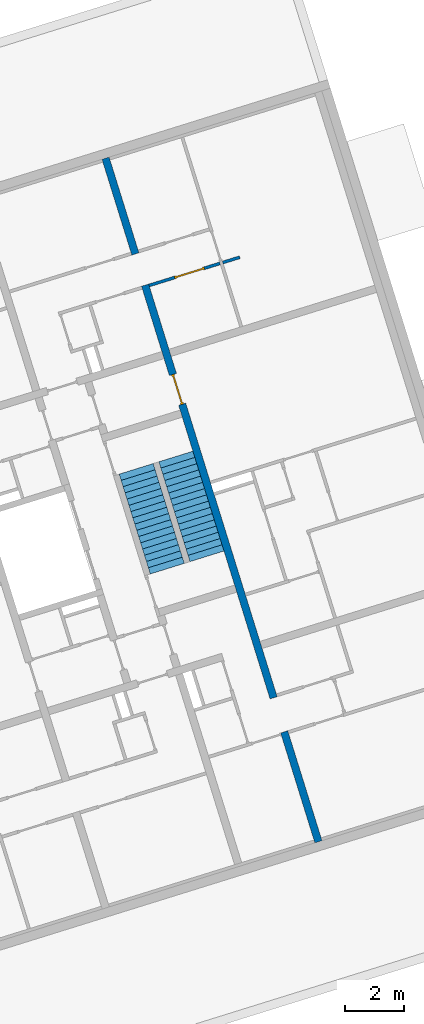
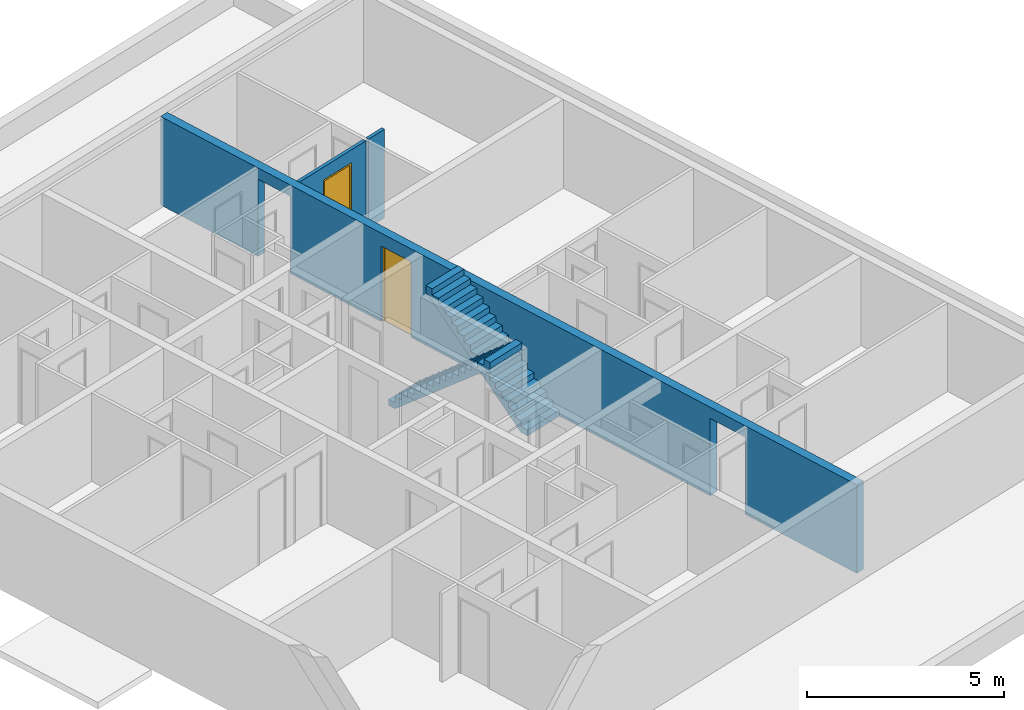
# One storey, part 9 of 9: 2 doors, 2 stair flights, 2 walls, 5 openings, 2 elements without a shape of their own.
"""IFC4 building model written with IfcOpenShell, lengths in metres."""

from ifc_helpers import new_model, entity, si_unit, converted_unit, direction, frame, origin, place, context, subcontext, project, spatial, indexed_curve, outline, extrude, polygons, source, transform, mapped, material, constituent, constituent_set, type_object, type_shapes, element, fill, aggregate, save


model = new_model("IFC4")

# Units and contexts
model_context = context("Model", 3, precision=1e-05, world=origin(), true_north=direction((6.12323399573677e-17, 1.0)))
body_context = subcontext(model_context, "Body", "Model", "MODEL_VIEW")
ifc_project = project(units=[si_unit("LENGTHUNIT", "METRE"), si_unit("AREAUNIT", "SQUARE_METRE"), si_unit("VOLUMEUNIT", "CUBIC_METRE"), converted_unit("PLANEANGLEUNIT", "DEGREE", entity("IfcPlaneAngleMeasure", 0.0174532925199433), si_unit("PLANEANGLEUNIT", "RADIAN"), dimensions=[0, 0, 0, 0, 0, 0, 0])], contexts=[model_context])

# Site, building, storey
site_placement = place(None, frame((13.1347999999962, 11.9886000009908, 0.0), z_axis=(0.0, 0.0, 1.0), x_axis=(0.954770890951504, 0.297342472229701, 0.0)))
site = spatial("IfcSite", under=ifc_project, at=site_placement, Name="Schiehaven", CompositionType="ELEMENT")
building_placement = place(site_placement, origin())
building = spatial("IfcBuilding", under=site, at=building_placement, Name="VORM huis", CompositionType="ELEMENT")
storey_placement = place(building_placement, frame((0.0, 0.0, 6.9)))
storey = spatial("IfcBuildingStorey", under=building, at=storey_placement, Name="02 tweede verdieping", CompositionType="ELEMENT", Elevation=6.9)

# Wall, openings, door
ifc_material_1 = material(Name="beton_gewapend_ihw", Category="Miscellaneous")
wall_type_1 = type_object("IfcWallType", Name="Basic Wall:28_WA_skelet_wand 250mm_gen", PredefinedType="STANDARD")
wall_1_placement = place(storey_placement, frame((20.0, 29.0999999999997, 0.0), z_axis=(0.0, 0.0, 1.0), x_axis=(0.0, -1.0, 0.0)))
wall_1 = element("IfcWall", 1, at=wall_1_placement, inside=storey, type_object=wall_type_1, material=ifc_material_1, Name="Constructieve wand", ObjectType="Wand", PredefinedType="NOTDEFINED", context=body_context, shape_type="Tessellation", body=[
    polygons([(8.67499999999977, -0.124999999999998, 2.34999999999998), (8.67499999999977, -0.124999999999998, 1.08286712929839e-15), (19.0249999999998, -0.124999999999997, 1.08286712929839e-15), (19.0249999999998, -0.124999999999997, 2.4), (20.2249999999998, -0.125000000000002, 2.4), (20.2249999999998, -0.124999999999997, 1.08286712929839e-15), (24.1, -0.124999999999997, 1.08286712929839e-15), (24.1, -0.124999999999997, 2.75), (7.025, -0.124999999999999, 2.75), (6.775, -0.125, 2.75), (4.33146851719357e-15, -0.124999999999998, 2.75), (4.33146851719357e-15, -0.124999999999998, 1.08286712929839e-15), (3.37499999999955, -0.124999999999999, 1.08286712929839e-15), (3.37499999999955, -0.124999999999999, 2.4), (4.47499999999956, -0.124999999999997, 2.4), (4.47499999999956, -0.124999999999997, 1.08286712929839e-15), (6.775, -0.125, 0.0), (7.025, -0.124999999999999, 0.0), (7.62499999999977, -0.124999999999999, 1.08286712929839e-15), (7.62499999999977, -0.124999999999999, 2.34999999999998), (19.0249999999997, 0.125000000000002, 1.08286712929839e-15), (15.4749999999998, 0.125, 0.0), (15.3749999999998, 0.125000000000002, 0.0), (8.67499999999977, 0.125000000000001, 1.08286712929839e-15), (8.67499999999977, 0.125000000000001, 2.34999999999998), (7.62499999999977, 0.125, 2.34999999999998), (7.62499999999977, 0.125, 1.08286712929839e-15), (4.47499999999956, 0.125000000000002, 1.08286712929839e-15), (4.47499999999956, 0.125000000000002, 2.4), (3.37499999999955, 0.125, 2.4), (3.37499999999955, 0.125, 1.08286712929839e-15), (0.0, 0.125000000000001, 1.08286712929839e-15), (0.0, 0.125000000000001, 2.75), (15.3749999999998, 0.125000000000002, 2.75), (15.4749999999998, 0.125, 2.75), (24.1, 0.125000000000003, 2.75), (24.1, 0.125000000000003, 1.08286712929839e-15), (20.2249999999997, 0.125000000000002, 1.08286712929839e-15), (20.2249999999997, 0.125000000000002, 2.4), (19.0249999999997, 0.125000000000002, 2.4)], [[[1, 2, 3, 4, 5, 6, 7, 8, 9, 10, 11, 12, 13, 14, 15, 16, 17, 18, 19, 20]], [[21, 22, 23, 24, 25, 26, 27, 28, 29, 30, 31, 32, 33, 34, 35, 36, 37, 38, 39, 40]], [[12, 32, 31, 13]], [[8, 7, 37, 36]], [[11, 10, 9, 8, 36, 35, 34, 33]], [[12, 11, 33, 32]], [[14, 30, 29, 15]], [[30, 14, 13, 31]], [[15, 29, 28, 16]], [[4, 40, 39, 5]], [[40, 4, 3, 21]], [[5, 39, 38, 6]], [[27, 26, 20, 19]], [[25, 24, 2, 1]], [[26, 25, 1, 20]], [[19, 18, 17, 16, 28, 27]], [[3, 2, 24, 23, 22, 21]], [[37, 7, 6, 38]]], closed=True),
])
opening_1_placement = place(wall_1_placement, origin())
element("IfcOpeningElement", 2, at=opening_1_placement, cuts=wall_1, Name="Constructieve wand", PredefinedType="OPENING", context=body_context, shape_type="SweptSolid", body=[
    extrude(outline(indexed_curve([(-1.2, -0.550000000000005), (1.2, -0.550000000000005), (1.2, 0.550000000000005), (-1.2, 0.550000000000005), (-1.2, -0.550000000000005)], self_intersect=False)), frame((3.92499999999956, -0.125000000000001, 1.2), z_axis=(0.0, 1.0, 0.0), x_axis=(0.0, 0.0, -1.0)), (0.0, 0.0, 1.0), 0.250000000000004),
])
opening_2_placement = place(wall_1_placement, origin())
element("IfcOpeningElement", 3, at=opening_2_placement, cuts=wall_1, Name="Constructieve wand", PredefinedType="OPENING", context=body_context, shape_type="SweptSolid", body=[
    extrude(outline(indexed_curve([(-1.2, -0.599999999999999), (1.2, -0.599999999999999), (1.2, 0.599999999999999), (-1.2, 0.599999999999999), (-1.2, -0.599999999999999)], self_intersect=False)), frame((19.6249999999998, -0.125000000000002, 1.2), z_axis=(0.0, 1.0, 0.0), x_axis=(0.0, 0.0, -1.0)), (0.0, 0.0, 1.0), 0.250000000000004),
])
opening_3_placement = place(wall_1_placement, frame((8.67499999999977, 0.125000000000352, 0.0)))
opening_3 = element("IfcOpeningElement", 4, at=opening_3_placement, cuts=wall_1, Name="Binnendeur", PredefinedType="OPENING", context=body_context, shape_type="SweptSolid", body=[
    extrude(outline(indexed_curve([(2.34999999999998, 1.05), (0.0, 1.05), (0.0, -7.44152288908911e-29), (2.34999999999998, -7.44152288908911e-29), (2.34999999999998, 1.05)], self_intersect=False)), frame((0.0, 0.0, 0.0), z_axis=(0.0, -1.0, 0.0), x_axis=(0.0, 0.0, 1.0)), (0.0, 0.0, 1.0), 0.25),
])
ifc_material_2 = material(Name="PD_a_binnenwandopeningen", Category="Miscellaneous")
ifc_constituent_1 = constituent(ifc_material_2, Name="PD_a_binnenwandopeningen", Category="Miscellaneous")
ifc_material_3 = material(Name="metaal_aluminium_ntb", Category="Miscellaneous")
ifc_constituent_2 = constituent(ifc_material_3, Name="metaal_aluminium_ntb", Category="Miscellaneous")
ifc_constituent_set_1 = constituent_set(constituents=[ifc_constituent_1, ifc_constituent_2])
door_type = type_object("IfcDoorType", Name="32_DO_binnendeur enkel:binnendeur", OperationType="REVOLVING", PredefinedType="DOOR")
shared_shape_1 = source(origin(), body_context, "Body", "SweptSolid", [
    extrude(outline(indexed_curve([(-1.16249999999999, -0.525000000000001), (1.18749999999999, -0.525), (1.18749999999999, 0.525000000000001), (-1.16249999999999, 0.525000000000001), (-1.16249999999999, 0.475), (1.13749999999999, 0.475), (1.13749999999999, -0.475), (-1.16249999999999, -0.475), (-1.16249999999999, -0.525000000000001)], self_intersect=False)), frame((0.525000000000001, 0.0749999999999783, 1.16249999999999), z_axis=(0.0, 1.0, 0.0), x_axis=(0.0, 0.0, 1.0)), (0.0, 0.0, 1.0), 0.1),
    extrude(outline(indexed_curve([(-0.025, -0.475), (0.025, -0.475), (0.025, 0.475), (-0.025, 0.475), (-0.025, -0.475)], self_intersect=False)), frame((0.525000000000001, 0.12499999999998, 0.0), z_axis=(0.0, 0.0, 1.0), x_axis=(0.0, 1.0, 0.0)), (0.0, 0.0, 1.0), 2.29999999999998),
])
door_1_placement = place(opening_3_placement, frame((0.0, 0.0, 0.0), z_axis=(0.0, 0.0, 1.0), x_axis=(-1.0, 0.0, 0.0)))
door_1 = element("IfcDoor", 5, at=door_1_placement, inside=storey, type_object=door_type, material=ifc_constituent_set_1, Name="Binnendeur", ObjectType="Deur", OperationType="REVOLVING", OverallHeight=2.34999999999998, OverallWidth=1.05, PredefinedType="DOOR", context=body_context, shape_type="MappedRepresentation", body=[
    mapped(shared_shape_1, transform((0.0, 0.0, 0.0), scale=1.0)),
])
fill(opening_3, door_1)

ifc_material_4 = material(Name="ntb_ntb_ntb", Category="Miscellaneous")
wall_type_2 = type_object("IfcWallType", Name="Basic Wall:22_WA_afbouw_binnenwand 100mm_gen", PredefinedType="STANDARD")
wall_2_placement = place(storey_placement, frame((20.1250000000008, 24.5750000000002, 0.0)))
wall_2 = element("IfcWall", 6, at=wall_2_placement, inside=storey, type_object=wall_type_2, material=ifc_material_4, Name="Binnenwand", ObjectType="Wand", PredefinedType="NOTDEFINED", context=body_context, shape_type="Tessellation", body=[
    polygons([(3.45443588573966e-16, -0.0499999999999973, 2.75), (3.45443588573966e-16, -0.0499999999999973, 1.08286712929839e-15), (0.899999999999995, -0.049999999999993, 1.08286712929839e-15), (0.899999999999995, -0.049999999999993, 2.34999999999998), (1.94999999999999, -0.0499999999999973, 2.34999999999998), (1.95, -0.0499999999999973, 1.08286712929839e-15), (2.50000000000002, -0.049999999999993, 1.08286712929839e-15), (2.50000000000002, -0.049999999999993, 2.75), (-1.52526066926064e-15, 0.0500000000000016, 1.08286712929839e-15), (0.899999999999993, 0.050000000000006, 1.08286712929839e-15), (-1.52526066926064e-15, 0.0500000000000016, 2.75), (1.94999999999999, 0.0500000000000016, 2.34999999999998), (1.95, 0.0500000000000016, 1.08286712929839e-15), (0.899999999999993, 0.050000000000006, 2.34999999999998), (2.50000000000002, 0.050000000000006, 1.08286712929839e-15), (2.50000000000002, 0.050000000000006, 2.75)], [[[1, 2, 3, 4, 5, 6, 7, 8]], [[2, 9, 10, 3]], [[2, 1, 11, 9]], [[6, 5, 12, 13]], [[4, 3, 10, 14]], [[5, 4, 14, 12]], [[8, 7, 15, 16]], [[11, 1, 8, 16]], [[6, 13, 15, 7]], [[9, 11, 16, 15, 13, 12, 14, 10]]], closed=True),
    polygons([(3.2, 0.050000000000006, 2.75), (3.2, 0.050000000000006, 1.08286712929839e-15), (2.60000000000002, 0.0500000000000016, 1.08286712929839e-15), (2.60000000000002, 0.0500000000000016, 2.75), (3.2, -0.049999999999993, 2.75), (3.2, -0.049999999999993, 1.08286712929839e-15), (2.60000000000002, -0.0499999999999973, 2.75), (2.60000000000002, -0.0499999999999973, 1.08286712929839e-15)], [[[1, 2, 3, 4]], [[5, 6, 2, 1]], [[5, 1, 4, 7]], [[8, 7, 4, 3]], [[2, 6, 8, 3]], [[6, 5, 7, 8]]], closed=True),
])
opening_4_placement = place(storey_placement, frame((20.1250000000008, 24.5750000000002, 0.0)))
element("IfcOpeningElement", 7, at=opening_4_placement, cuts=wall_2, Name="Binnenwand:1", PredefinedType="OPENING", context=body_context, shape_type="SweptSolid", body=[
    extrude(outline(indexed_curve([(-1.375, -0.0499999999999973), (1.375, -0.0499999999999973), (1.375, 0.0500000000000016), (-1.375, 0.0500000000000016), (-1.375, -0.0499999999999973)], self_intersect=False)), frame((2.50000000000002, 0.0, 1.375), z_axis=(1.0, 0.0, 0.0), x_axis=(0.0, 0.0, -1.0)), (0.0, 0.0, 1.0), 0.0999999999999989),
])
opening_5_placement = place(wall_2_placement, frame((0.899999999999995, -0.050000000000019, 0.0)))
opening_5 = element("IfcOpeningElement", 8, at=opening_5_placement, cuts=wall_2, Name="Binnendeur", PredefinedType="OPENING", context=body_context, shape_type="SweptSolid", body=[
    extrude(outline(indexed_curve([(2.34999999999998, 1.05), (0.0, 1.05), (0.0, 0.0), (2.34999999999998, 0.0), (2.34999999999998, 1.05)], self_intersect=False)), frame((0.0, 0.0, 0.0), z_axis=(0.0, 1.0, 0.0), x_axis=(0.0, 0.0, 1.0)), (0.0, 0.0, 1.0), 0.1),
])
ifc_constituent_3 = constituent(ifc_material_2, Name="PD_a_binnenwandopeningen", Category="Miscellaneous")
ifc_constituent_4 = constituent(ifc_material_3, Name="metaal_aluminium_ntb", Category="Miscellaneous")
ifc_constituent_set_2 = constituent_set(constituents=[ifc_constituent_3, ifc_constituent_4])
shared_shape_2 = source(origin(), body_context, "Body", "SweptSolid", [
    extrude(outline(indexed_curve([(-1.16249999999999, -0.525000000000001), (1.18749999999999, -0.525), (1.18749999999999, 0.525), (-1.16249999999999, 0.525), (-1.16249999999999, 0.475), (1.13749999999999, 0.475), (1.13749999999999, -0.475), (-1.16249999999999, -0.475), (-1.16249999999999, -0.525000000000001)], self_intersect=False)), frame((0.525000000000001, 0.0, 1.16249999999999), z_axis=(0.0, 1.0, 0.0), x_axis=(0.0, 0.0, 1.0)), (0.0, 0.0, 1.0), 0.1),
    extrude(outline(indexed_curve([(-0.025, -0.475), (0.025, -0.475), (0.025, 0.475), (-0.025, 0.475), (-0.025, -0.475)], self_intersect=False)), frame((0.525000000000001, 0.0499999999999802, 0.0), z_axis=(0.0, 0.0, 1.0), x_axis=(0.0, 1.0, 0.0)), (0.0, 0.0, 1.0), 2.29999999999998),
])
type_shapes(door_type, [shared_shape_2])
door_2_placement = place(opening_5_placement, origin())
door_2 = element("IfcDoor", 9, at=door_2_placement, inside=storey, type_object=door_type, material=ifc_constituent_set_2, Name="Binnendeur", ObjectType="Deur", OperationType="REVOLVING", OverallHeight=2.34999999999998, OverallWidth=1.05, PredefinedType="DOOR", context=body_context, shape_type="MappedRepresentation", body=[
    mapped(shared_shape_2, transform((0.0, 0.0, 0.0), scale=1.0)),
])
fill(opening_5, door_2)

# Stair, stair flight
stair_type = type_object("IfcStairType", Name="Trap", PredefinedType="STRAIGHT_RUN_STAIR")
stair_1_placement = place(storey_placement, origin())
stair_1 = element("IfcStair", 10, at=stair_1_placement, inside=storey, type_object=stair_type, Name="Hoofdtrap", ObjectType="Precast Stair:NLRS_24_STR_reguliere trap-woonfunctie-breedte 1200mm_gen", PredefinedType="STRAIGHT_RUN_STAIR")
ifc_material_5 = material(Name="beton_gewapend_prefab-element", Category="Miscellaneous")
stair_flight_type = type_object("IfcStairFlightType", Name="Monolithic Run:NLRS_24_STRR_trap-beton prefab-monolithisch-recht_gen_rsf", PredefinedType="STRAIGHT")
stair_flight_1_placement = place(stair_1_placement, frame((18.6750000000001, 15.29, 0.0)))
stair_flight_1 = element("IfcStairFlight", 11, at=stair_flight_1_placement, type_object=stair_flight_type, material=ifc_material_5, Name="Hoofdtrap Run 1", ObjectType="Monolithic Run:NLRS_24_STRR_trap-beton prefab-monolithisch-recht_gen_rsf", PredefinedType="STRAIGHT", context=body_context, shape_type="Tessellation", body=[
    polygons([(0.0, 0.220000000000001, 0.1875), (-3.5527136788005e-15, 0.0, 0.1875), (1.2, 0.0, 0.1875), (1.2, 0.219999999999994, 0.1875), (0.0, 0.22000000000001, 1.77635683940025e-15), (-3.5527136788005e-15, 0.0, 1.77635683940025e-15), (1.2, 0.0, 1.77635683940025e-15), (1.2, 0.219999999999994, 1.77635683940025e-15), (0.0, 0.44, 0.375000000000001), (-3.5527136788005e-15, 0.219999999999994, 0.375000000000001), (1.2, 0.219999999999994, 0.375000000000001), (1.2, 0.439999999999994, 0.375000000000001), (0.0, 0.440000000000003, 0.177912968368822), (0.0, 0.231248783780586, 1.77635683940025e-15), (1.2, 0.231248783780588, 1.77635683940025e-15), (1.2, 0.439999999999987, 0.177912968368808), (0.0, 0.659999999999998, 0.5625), (0.0, 0.439999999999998, 0.5625), (1.2, 0.439999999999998, 0.5625), (1.2, 0.659999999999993, 0.5625), (0.0, 0.660000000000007, 0.365412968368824), (1.2, 0.659999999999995, 0.365412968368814), (0.0, 0.879999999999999, 0.750000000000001), (0.0, 0.659999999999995, 0.750000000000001), (1.2, 0.659999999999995, 0.750000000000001), (1.2, 0.879999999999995, 0.750000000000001), (0.0, 0.879999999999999, 0.55291296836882), (1.2, 0.879999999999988, 0.55291296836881), (3.5527136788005e-15, 1.1, 0.937500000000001), (0.0, 0.880000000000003, 0.937500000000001), (1.2, 0.880000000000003, 0.937500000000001), (1.2, 1.09999999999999, 0.937500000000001), (0.0, 1.10000000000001, 0.740412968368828), (1.2, 1.1, 0.740412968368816), (3.5527136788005e-15, 1.32, 1.125), (0.0, 1.09999999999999, 1.125), (1.2, 1.09999999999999, 1.125), (1.2, 1.31999999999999, 1.125), (0.0, 1.32, 0.92791296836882), (1.2, 1.31999999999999, 0.927912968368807), (7.105427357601e-15, 1.54, 1.3125), (0.0, 1.32, 1.3125), (1.2, 1.32, 1.3125), (1.2, 1.54, 1.3125), (7.105427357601e-15, 1.54000000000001, 1.11541296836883), (1.2, 1.54, 1.11541296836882), (7.105427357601e-15, 1.76, 1.5), (0.0, 1.54, 1.5), (1.2, 1.54, 1.5), (1.2, 1.75999999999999, 1.5), (7.105427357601e-15, 1.76, 1.30291296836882), (1.2, 1.75999999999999, 1.30291296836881), (7.105427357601e-15, 1.98, 1.6875), (7.105427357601e-15, 1.76, 1.6875), (1.2, 1.76, 1.6875), (1.2, 1.97999999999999, 1.6875), (7.105427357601e-15, 1.98000000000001, 1.49041296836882), (1.2, 1.97999999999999, 1.49041296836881), (7.105427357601e-15, 2.2, 1.875), (7.105427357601e-15, 1.97999999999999, 1.875), (1.2, 1.97999999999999, 1.875), (1.2, 2.2, 1.875), (7.105427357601e-15, 2.2, 1.67791296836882), (1.2, 2.19999999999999, 1.67791296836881), (1.06581410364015e-14, 2.42, 2.0625), (7.105427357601e-15, 2.2, 2.0625), (1.2, 2.2, 2.0625), (1.2, 2.41999999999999, 2.0625), (1.06581410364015e-14, 2.42000000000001, 1.86541296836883), (1.2, 2.41999999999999, 1.86541296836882), (1.06581410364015e-14, 2.64, 2.25), (7.105427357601e-15, 2.41999999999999, 2.25), (1.2, 2.41999999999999, 2.25), (1.2, 2.63999999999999, 2.25), (1.06581410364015e-14, 2.64, 2.05291296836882), (1.2, 2.63999999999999, 2.05291296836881), (1.06581410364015e-14, 2.86, 2.4375), (1.06581410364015e-14, 2.64, 2.4375), (1.2, 2.64, 2.4375), (1.2, 2.85999999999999, 2.4375), (1.4210854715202e-14, 2.86000000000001, 2.24041296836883), (1.2, 2.85999999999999, 2.24041296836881), (1.06581410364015e-14, 3.08, 2.625), (1.06581410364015e-14, 2.85999999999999, 2.625), (1.2, 2.85999999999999, 2.625), (1.2, 3.07999999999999, 2.625), (1.4210854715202e-14, 3.08, 2.42791296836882), (1.2, 3.07999999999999, 2.42791296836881), (1.4210854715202e-14, 3.3, 2.8125), (1.4210854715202e-14, 3.08, 2.8125), (1.20000000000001, 3.08, 2.8125), (1.2, 3.29999999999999, 2.8125), (1.4210854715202e-14, 3.30000000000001, 2.61541296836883), (1.2, 3.29999999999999, 2.61541296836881), (1.4210854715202e-14, 3.52, 3.0), (1.4210854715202e-14, 3.29999999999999, 3.0), (1.20000000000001, 3.29999999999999, 3.0), (1.20000000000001, 3.51999999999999, 3.0), (7.105427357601e-15, 3.52, 2.80291296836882), (1.2, 3.51999999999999, 2.80291296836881)], [[[1, 2, 3, 4]], [[2, 1, 5, 6]], [[3, 2, 6, 7]], [[4, 3, 7, 8]], [[9, 10, 11, 12]], [[5, 1, 10, 9, 13, 14]], [[1, 4, 11, 10]], [[4, 8, 15, 16, 12, 11]], [[17, 18, 19, 20]], [[18, 17, 21, 13, 9]], [[9, 12, 19, 18]], [[20, 19, 12, 16, 22]], [[23, 24, 25, 26]], [[24, 23, 27, 21, 17]], [[17, 20, 25, 24]], [[26, 25, 20, 22, 28]], [[29, 30, 31, 32]], [[30, 29, 33, 27, 23]], [[23, 26, 31, 30]], [[32, 31, 26, 28, 34]], [[35, 36, 37, 38]], [[36, 35, 39, 33, 29]], [[29, 32, 37, 36]], [[38, 37, 32, 34, 40]], [[41, 42, 43, 44]], [[42, 41, 45, 39, 35]], [[35, 38, 43, 42]], [[44, 43, 38, 40, 46]], [[47, 48, 49, 50]], [[48, 47, 51, 45, 41]], [[41, 44, 49, 48]], [[50, 49, 44, 46, 52]], [[53, 54, 55, 56]], [[54, 53, 57, 51, 47]], [[47, 50, 55, 54]], [[56, 55, 50, 52, 58]], [[59, 60, 61, 62]], [[60, 59, 63, 57, 53]], [[53, 56, 61, 60]], [[62, 61, 56, 58, 64]], [[65, 66, 67, 68]], [[66, 65, 69, 63, 59]], [[59, 62, 67, 66]], [[68, 67, 62, 64, 70]], [[71, 72, 73, 74]], [[72, 71, 75, 69, 65]], [[65, 68, 73, 72]], [[74, 73, 68, 70, 76]], [[77, 78, 79, 80]], [[78, 77, 81, 75, 71]], [[71, 74, 79, 78]], [[80, 79, 74, 76, 82]], [[83, 84, 85, 86]], [[84, 83, 87, 81, 77]], [[77, 80, 85, 84]], [[86, 85, 80, 82, 88]], [[89, 90, 91, 92]], [[90, 89, 93, 87, 83]], [[83, 86, 91, 90]], [[92, 91, 86, 88, 94]], [[95, 96, 97, 98]], [[96, 95, 99, 93, 89]], [[89, 92, 97, 96]], [[98, 97, 92, 94, 100]], [[95, 98, 100, 99]], [[6, 5, 14, 15, 8, 7]], [[15, 14, 13, 21, 27, 33, 39, 45, 51, 57, 63, 69, 75, 81, 87, 93, 99, 100, 94, 88, 82, 76, 70, 64, 58, 52, 46, 40, 34, 28, 22, 16]]], closed=True),
])
aggregate(stair_1, [stair_flight_1])

stair_2_placement = place(storey_placement, origin())
stair_2 = element("IfcStair", 12, at=stair_2_placement, inside=storey, type_object=stair_type, Name="Hoofdtrap", ObjectType="Precast Stair:NLRS_24_STR_reguliere trap-woonfunctie-breedte 1200mm_gen", PredefinedType="STRAIGHT_RUN_STAIR")
stair_flight_2_placement = place(stair_2_placement, frame((17.2750000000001, 15.29, 0.0)))
stair_flight_2 = element("IfcStairFlight", 13, at=stair_flight_2_placement, type_object=stair_flight_type, material=ifc_material_5, Name="Hoofdtrap Run 1", ObjectType="Monolithic Run:NLRS_24_STRR_trap-beton prefab-monolithisch-recht_gen_rsf", PredefinedType="STRAIGHT", context=body_context, shape_type="Tessellation", body=[
    polygons([(1.20000000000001, 3.3, 0.1875), (1.20000000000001, 3.52, 0.1875), (1.4210854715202e-14, 3.52, 0.1875), (1.4210854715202e-14, 3.30000000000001, 0.1875), (1.20000000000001, 3.3, 1.77635683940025e-15), (1.20000000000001, 3.52, 1.77635683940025e-15), (1.4210854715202e-14, 3.52, 1.77635683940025e-15), (1.4210854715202e-14, 3.30000000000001, 1.77635683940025e-15), (1.20000000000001, 3.08, 0.375000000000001), (1.20000000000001, 3.30000000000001, 0.375000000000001), (1.4210854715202e-14, 3.30000000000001, 0.375000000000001), (1.4210854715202e-14, 3.08000000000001, 0.375000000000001), (1.20000000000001, 3.08, 0.177912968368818), (1.20000000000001, 3.28875121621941, -1.77635683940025e-15), (1.4210854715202e-14, 3.28875121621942, -1.77635683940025e-15), (1.4210854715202e-14, 3.08000000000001, 0.177912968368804), (1.20000000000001, 2.86, 0.5625), (1.20000000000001, 3.08, 0.5625), (1.06581410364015e-14, 3.08, 0.5625), (1.06581410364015e-14, 2.86000000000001, 0.5625), (1.20000000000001, 2.85999999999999, 0.365412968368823), (1.06581410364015e-14, 2.86000000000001, 0.36541296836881), (1.20000000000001, 2.64, 0.750000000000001), (1.20000000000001, 2.86000000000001, 0.750000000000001), (1.06581410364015e-14, 2.86000000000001, 0.750000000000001), (1.06581410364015e-14, 2.64000000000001, 0.750000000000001), (1.20000000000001, 2.64, 0.552912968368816), (1.06581410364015e-14, 2.64000000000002, 0.552912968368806), (1.20000000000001, 2.42, 0.937500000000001), (1.20000000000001, 2.64, 0.937500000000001), (1.06581410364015e-14, 2.64, 0.937500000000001), (1.06581410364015e-14, 2.42000000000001, 0.937500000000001), (1.20000000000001, 2.41999999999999, 0.740412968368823), (1.06581410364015e-14, 2.42000000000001, 0.740412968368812), (1.20000000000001, 2.2, 1.125), (1.20000000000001, 2.42000000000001, 1.125), (1.06581410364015e-14, 2.42000000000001, 1.125), (1.06581410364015e-14, 2.2, 1.125), (1.20000000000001, 2.2, 0.927912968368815), (1.06581410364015e-14, 2.20000000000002, 0.927912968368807), (1.20000000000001, 1.98, 1.3125), (1.20000000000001, 2.2, 1.3125), (7.105427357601e-15, 2.2, 1.3125), (7.105427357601e-15, 1.98000000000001, 1.3125), (1.20000000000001, 1.98, 1.11541296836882), (7.105427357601e-15, 1.98000000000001, 1.11541296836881), (1.20000000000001, 1.76, 1.5), (1.20000000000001, 1.98000000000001, 1.5), (7.105427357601e-15, 1.98000000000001, 1.5), (7.105427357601e-15, 1.76000000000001, 1.5), (1.20000000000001, 1.76, 1.30291296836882), (7.105427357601e-15, 1.76000000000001, 1.30291296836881), (1.2, 1.54, 1.6875), (1.20000000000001, 1.76, 1.6875), (7.105427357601e-15, 1.76, 1.6875), (7.105427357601e-15, 1.54000000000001, 1.6875), (1.2, 1.54, 1.49041296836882), (7.105427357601e-15, 1.54000000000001, 1.49041296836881), (1.2, 1.32, 1.875), (1.20000000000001, 1.54000000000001, 1.875), (7.105427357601e-15, 1.54000000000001, 1.875), (7.105427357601e-15, 1.32000000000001, 1.875), (1.2, 1.32, 1.67791296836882), (7.105427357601e-15, 1.32000000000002, 1.67791296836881), (1.2, 1.1, 2.0625), (1.2, 1.32, 2.0625), (7.105427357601e-15, 1.32, 2.0625), (3.5527136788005e-15, 1.10000000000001, 2.0625), (1.2, 1.09999999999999, 1.86541296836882), (7.105427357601e-15, 1.10000000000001, 1.86541296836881), (1.2, 0.880000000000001, 2.25), (1.2, 1.10000000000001, 2.25), (7.105427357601e-15, 1.10000000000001, 2.25), (3.5527136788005e-15, 0.880000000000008, 2.25), (1.2, 0.880000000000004, 2.05291296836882), (0.0, 0.880000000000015, 2.0529129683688), (1.2, 0.660000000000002, 2.4375), (1.2, 0.880000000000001, 2.4375), (0.0, 0.880000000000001, 2.4375), (0.0, 0.660000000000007, 2.4375), (1.2, 0.659999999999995, 2.24041296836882), (0.0, 0.660000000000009, 2.24041296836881), (1.2, 0.440000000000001, 2.625), (1.2, 0.660000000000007, 2.625), (0.0, 0.660000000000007, 2.625), (0.0, 0.440000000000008, 2.625), (1.2, 0.440000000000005, 2.42791296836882), (0.0, 0.440000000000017, 2.42791296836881), (1.2, 0.220000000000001, 2.8125), (1.2, 0.440000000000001, 2.8125), (0.0, 0.440000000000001, 2.8125), (0.0, 0.220000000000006, 2.8125), (1.2, 0.219999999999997, 2.61541296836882), (0.0, 0.220000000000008, 2.61541296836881), (1.2, 1.77635683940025e-15, 3.0), (1.2, 0.220000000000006, 3.0), (0.0, 0.220000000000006, 3.0), (0.0, 1.24344978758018e-14, 3.0), (1.2, 1.77635683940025e-15, 2.80291296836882), (0.0, 1.24344978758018e-14, 2.80291296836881)], [[[1, 2, 3, 4]], [[2, 1, 5, 6]], [[3, 2, 6, 7]], [[4, 3, 7, 8]], [[9, 10, 11, 12]], [[5, 1, 10, 9, 13, 14]], [[1, 4, 11, 10]], [[4, 8, 15, 16, 12, 11]], [[17, 18, 19, 20]], [[18, 17, 21, 13, 9]], [[9, 12, 19, 18]], [[20, 19, 12, 16, 22]], [[23, 24, 25, 26]], [[24, 23, 27, 21, 17]], [[17, 20, 25, 24]], [[26, 25, 20, 22, 28]], [[29, 30, 31, 32]], [[30, 29, 33, 27, 23]], [[23, 26, 31, 30]], [[32, 31, 26, 28, 34]], [[35, 36, 37, 38]], [[36, 35, 39, 33, 29]], [[29, 32, 37, 36]], [[38, 37, 32, 34, 40]], [[41, 42, 43, 44]], [[42, 41, 45, 39, 35]], [[35, 38, 43, 42]], [[44, 43, 38, 40, 46]], [[47, 48, 49, 50]], [[48, 47, 51, 45, 41]], [[41, 44, 49, 48]], [[50, 49, 44, 46, 52]], [[53, 54, 55, 56]], [[54, 53, 57, 51, 47]], [[47, 50, 55, 54]], [[56, 55, 50, 52, 58]], [[59, 60, 61, 62]], [[60, 59, 63, 57, 53]], [[53, 56, 61, 60]], [[62, 61, 56, 58, 64]], [[65, 66, 67, 68]], [[66, 65, 69, 63, 59]], [[59, 62, 67, 66]], [[68, 67, 62, 64, 70]], [[71, 72, 73, 74]], [[72, 71, 75, 69, 65]], [[65, 68, 73, 72]], [[74, 73, 68, 70, 76]], [[77, 78, 79, 80]], [[78, 77, 81, 75, 71]], [[71, 74, 79, 78]], [[80, 79, 74, 76, 82]], [[83, 84, 85, 86]], [[84, 83, 87, 81, 77]], [[77, 80, 85, 84]], [[86, 85, 80, 82, 88]], [[89, 90, 91, 92]], [[90, 89, 93, 87, 83]], [[83, 86, 91, 90]], [[92, 91, 86, 88, 94]], [[95, 96, 97, 98]], [[96, 95, 99, 93, 89]], [[89, 92, 97, 96]], [[98, 97, 92, 94, 100]], [[95, 98, 100, 99]], [[6, 5, 14, 15, 8, 7]], [[15, 14, 13, 21, 27, 33, 39, 45, 51, 57, 63, 69, 75, 81, 87, 93, 99, 100, 94, 88, 82, 76, 70, 64, 58, 52, 46, 40, 34, 28, 22, 16]]], closed=True),
])
aggregate(stair_2, [stair_flight_2])

save(model, "model.ifc")
